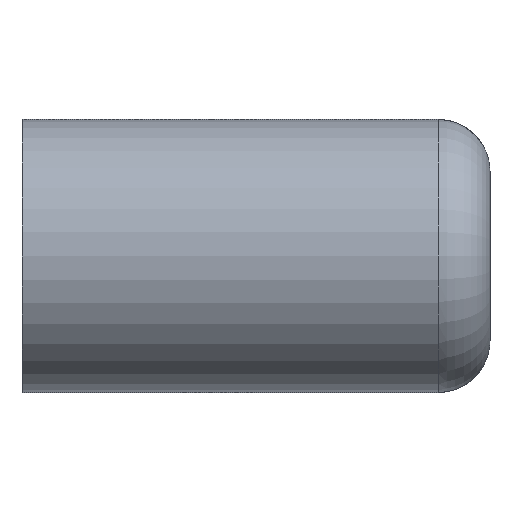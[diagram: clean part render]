
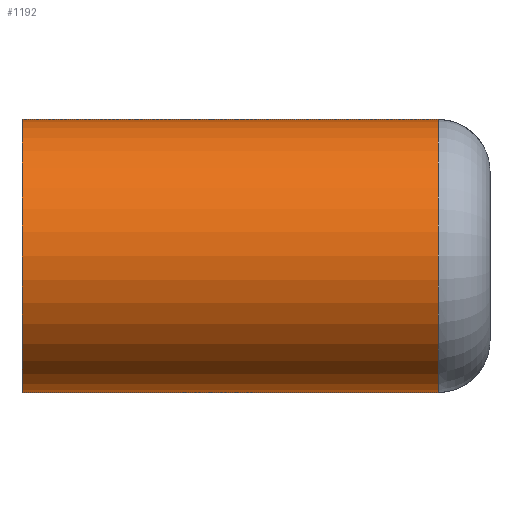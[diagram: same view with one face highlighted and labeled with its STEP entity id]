
A CAD part, front view. The second image highlights one B-rep face of the part: STEP entity #1192.
In plain terms, the highlighted cylindrical face has radius 2.625 mm (diameter 5.25 mm), a partial arc.
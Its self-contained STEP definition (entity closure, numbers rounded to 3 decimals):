
#311=CARTESIAN_POINT('',(10.711,379.654,-45.854));
#312=VERTEX_POINT('',#311);
#319=CARTESIAN_POINT('',(18.711,379.654,-45.854));
#320=VERTEX_POINT('',#319);
#321=CARTESIAN_POINT('',(10.711,379.654,-45.854));
#322=DIRECTION('',(1.,0.,-0.));
#323=VECTOR('',#322,8.);
#324=LINE('',#321,#323);
#325=EDGE_CURVE('',#312,#320,#324,.T.);
#416=CARTESIAN_POINT('',(18.711,379.654,-51.104));
#417=VERTEX_POINT('',#416);
#424=CARTESIAN_POINT('',(10.711,379.654,-51.104));
#425=VERTEX_POINT('',#424);
#426=CARTESIAN_POINT('',(10.711,379.654,-51.104));
#427=DIRECTION('',(1.,0.,-0.));
#428=VECTOR('',#427,8.);
#429=LINE('',#426,#428);
#430=EDGE_CURVE('',#425,#417,#429,.T.);
#529=CARTESIAN_POINT('',(10.711,379.654,-48.479));
#530=DIRECTION('',(1.,0.,0.));
#531=DIRECTION('',(0.,0.,-1.));
#532=AXIS2_PLACEMENT_3D('',#529,#530,#531);
#533=CIRCLE('',#532,2.625);
#534=EDGE_CURVE('',#312,#425,#533,.T.);
#1175=CARTESIAN_POINT('',(10.711,379.654,-48.479));
#1176=DIRECTION('',(1.,0.,0.));
#1177=DIRECTION('',(-0.,1.,0.));
#1178=AXIS2_PLACEMENT_3D('',#1175,#1176,#1177);
#1179=CYLINDRICAL_SURFACE('',#1178,2.625);
#1180=ORIENTED_EDGE('',*,*,#430,.T.);
#1181=CARTESIAN_POINT('',(18.711,379.654,-48.479));
#1182=DIRECTION('',(-1.,-0.,-0.));
#1183=DIRECTION('',(0.,0.,-1.));
#1184=AXIS2_PLACEMENT_3D('',#1181,#1182,#1183);
#1185=CIRCLE('',#1184,2.625);
#1186=EDGE_CURVE('',#417,#320,#1185,.T.);
#1187=ORIENTED_EDGE('',*,*,#1186,.T.);
#1188=ORIENTED_EDGE('',*,*,#325,.F.);
#1189=ORIENTED_EDGE('',*,*,#534,.T.);
#1190=EDGE_LOOP('',(#1180,#1187,#1188,#1189));
#1191=FACE_BOUND('',#1190,.T.);
#1192=ADVANCED_FACE('',(#1191),#1179,.T.);
